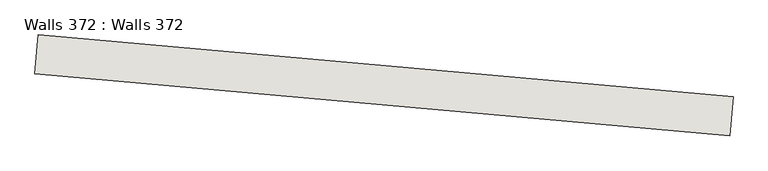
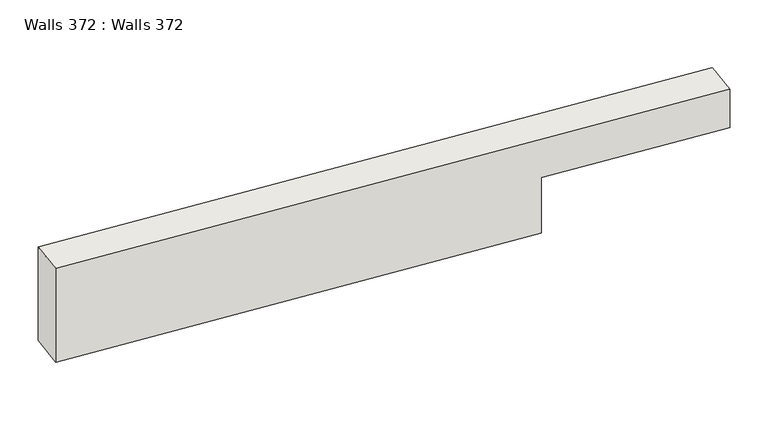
"""IFC4 building model written with IfcOpenShell, lengths in millimetres: wall geometry, Walls 372 : Walls 372."""

from ifc_helpers import new_model, si_unit, frame, origin, place, context, project, spatial, polyline, outline, extrude, source, transform, mapped, element, save


def walls_372_walls_372_8410d1d1(model_context):
    return source(origin(), model_context, "Body", "SweptSolid", [
        extrude(outline(polyline([(-2000.0, 0.0), (5149.9999999, 0.0), (5149.9999999, -1100.0), (0.0, -1100.0), (0.0, -450.0), (-2000.0, -450.0), (-2000.0, 0.0)])), frame((-669539.4459723, -419432.0552496, 636960.0), z_axis=(0.08873732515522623, 0.9960550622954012, 0.0), x_axis=(-0.9960550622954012, 0.08873732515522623, 0.0)), (0.0, 0.0, 1.0), 400.0),
    ])


if __name__ == "__main__":
    model = new_model("IFC4")
    model_context = context("Model", 3, world=origin())
    ifc_project = project(units=[si_unit("LENGTHUNIT", "METRE", prefix="MILLI")], contexts=[model_context])
    site = spatial("IfcSite", under=ifc_project)
    building = spatial("IfcBuilding", under=site)
    placement = place(None, origin())
    walls_372_walls_372_shape = walls_372_walls_372_8410d1d1(model_context)
    element("IfcWall", 1, ObjectType="Walls 372 : Walls 372", at=placement, inside=building, context=model_context, shape_type="MappedRepresentation", body=[
        mapped(walls_372_walls_372_shape, transform((0.0, 0.0, 0.0), x_axis=(1.0, 0.0, 0.0), y_axis=(0.0, 1.0, 0.0), z_axis=(0.0, 0.0, 1.0))),
    ])
    save(model, "model.ifc")
